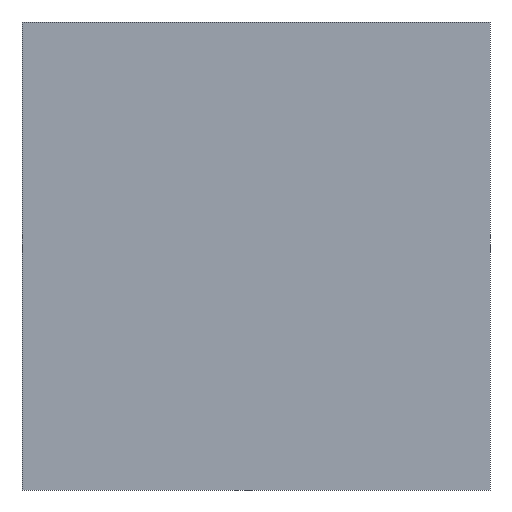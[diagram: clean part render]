
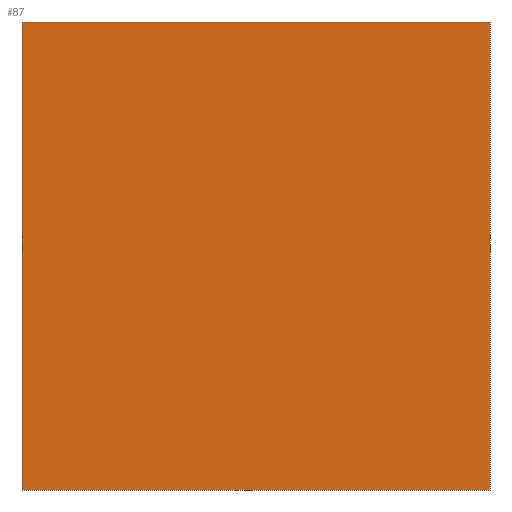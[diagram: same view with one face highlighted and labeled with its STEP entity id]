
A CAD part, front view. The second image highlights one B-rep face of the part: STEP entity #87.
In plain terms, the highlighted planar face has unit normal (0, -1, 0).
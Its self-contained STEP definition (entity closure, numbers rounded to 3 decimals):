
#87=ADVANCED_FACE('',(#132),#133,.F.);
#132=FACE_OUTER_BOUND('',#193,.T.);
#133=PLANE('',#194);
#193=EDGE_LOOP('',(#319,#320,#321,#322));
#194=AXIS2_PLACEMENT_3D('',#323,#324,#325);
#319=ORIENTED_EDGE('',*,*,#467,.T.);
#320=ORIENTED_EDGE('',*,*,#464,.F.);
#321=ORIENTED_EDGE('',*,*,#468,.F.);
#322=ORIENTED_EDGE('',*,*,#462,.F.);
#323=CARTESIAN_POINT('',(0.0,-0.5,0.25));
#324=DIRECTION('',(0.0,1.0,0.0));
#325=DIRECTION('',(0.0,0.0,1.0));
#462=EDGE_CURVE('',#541,#536,#543,.T.);
#464=EDGE_CURVE('',#545,#547,#548,.T.);
#467=EDGE_CURVE('',#541,#547,#552,.T.);
#468=EDGE_CURVE('',#536,#545,#553,.T.);
#536=VERTEX_POINT('',#660);
#541=VERTEX_POINT('',#667);
#543=LINE('',#670,#671);
#545=VERTEX_POINT('',#673);
#547=VERTEX_POINT('',#676);
#548=LINE('',#677,#678);
#552=LINE('',#684,#685);
#553=LINE('',#686,#687);
#660=CARTESIAN_POINT('',(0.25,-0.5,0.5));
#667=CARTESIAN_POINT('',(-0.25,-0.5,0.5));
#670=CARTESIAN_POINT('',(0.0,-0.5,0.5));
#671=VECTOR('',#783,1.0);
#673=CARTESIAN_POINT('',(0.25,-0.5,0.0));
#676=CARTESIAN_POINT('',(-0.25,-0.5,0.0));
#677=CARTESIAN_POINT('',(0.0,-0.5,0.0));
#678=VECTOR('',#785,1.0);
#684=CARTESIAN_POINT('',(-0.25,-0.5,0.25));
#685=VECTOR('',#788,1.0);
#686=CARTESIAN_POINT('',(0.25,-0.5,0.25));
#687=VECTOR('',#789,1.0);
#783=DIRECTION('',(1.0,0.0,0.0));
#785=DIRECTION('',(-1.0,0.0,0.0));
#788=DIRECTION('',(0.0,0.0,-1.0));
#789=DIRECTION('',(0.0,0.0,-1.0));
